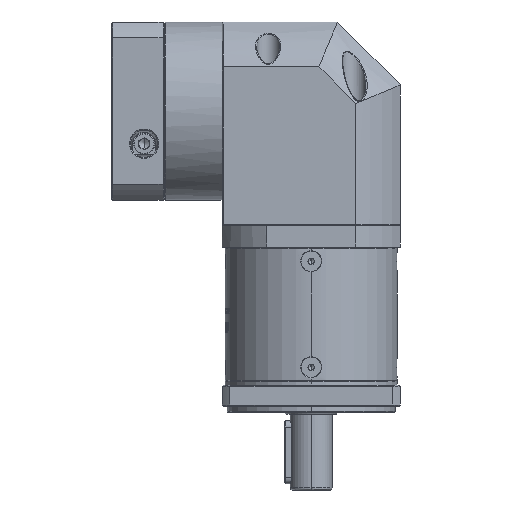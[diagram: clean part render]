
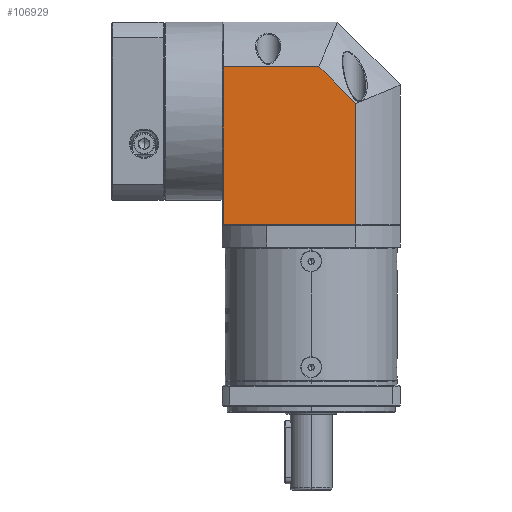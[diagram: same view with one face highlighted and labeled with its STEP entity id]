
A CAD part, left-side view. The second image highlights one B-rep face of the part: STEP entity #106929.
In plain terms, the highlighted planar face has unit normal (-1, 0, 0).
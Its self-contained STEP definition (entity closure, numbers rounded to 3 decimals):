
#6886 = CARTESIAN_POINT ( 'NONE',  ( -129.934, 29.81, 108.651 ) ) ;
#12900 = LINE ( 'NONE', #159520, #49364 ) ;
#16963 = CARTESIAN_POINT ( 'NONE',  ( -129.934, 12.28, 33.438 ) ) ;
#21484 = VECTOR ( 'NONE', #109934, 1000. ) ;
#25760 = LINE ( 'NONE', #93717, #21484 ) ;
#27544 = VERTEX_POINT ( 'NONE', #6886 ) ;
#38805 = EDGE_CURVE ( 'NONE', #153189, #154601, #25760, .T. ) ;
#39805 = AXIS2_PLACEMENT_3D ( 'NONE', #52288, #148241, #66148 ) ;
#42442 = ORIENTED_EDGE ( 'NONE', *, *, #38805, .T. ) ;
#42551 = CARTESIAN_POINT ( 'NONE',  ( -129.934, 75.493, 108.651 ) ) ;
#43407 = LINE ( 'NONE', #109161, #161566 ) ;
#43845 = VECTOR ( 'NONE', #63305, 1000. ) ;
#48285 = EDGE_CURVE ( 'NONE', #90035, #27544, #43407, .T. ) ;
#48838 = CARTESIAN_POINT ( 'NONE',  ( -129.934, 75.493, 129.938 ) ) ;
#49364 = VECTOR ( 'NONE', #63599, 1000. ) ;
#52288 = CARTESIAN_POINT ( 'NONE',  ( -129.934, 75.993, 129.938 ) ) ;
#52754 = CARTESIAN_POINT ( 'NONE',  ( -129.934, 75.493, 33.438 ) ) ;
#54494 = DIRECTION ( 'NONE',  ( 0., -1., 0. ) ) ;
#56301 = ORIENTED_EDGE ( 'NONE', *, *, #139628, .F. ) ;
#60227 = DIRECTION ( 'NONE',  ( 0., 0., -1. ) ) ;
#63305 = DIRECTION ( 'NONE',  ( 0., 0., 1. ) ) ;
#63599 = DIRECTION ( 'NONE',  ( 0., -0.707, -0.707 ) ) ;
#64021 = LINE ( 'NONE', #145284, #100517 ) ;
#66148 = DIRECTION ( 'NONE',  ( 0., 1., 0. ) ) ;
#70414 = EDGE_LOOP ( 'NONE', ( #42442, #97222, #134782, #82148, #56301 ) ) ;
#82148 = ORIENTED_EDGE ( 'NONE', *, *, #48285, .F. ) ;
#84062 = EDGE_CURVE ( 'NONE', #27544, #152440, #12900, .T. ) ;
#90035 = VERTEX_POINT ( 'NONE', #42551 ) ;
#93717 = CARTESIAN_POINT ( 'NONE',  ( -129.934, 75.993, 33.438 ) ) ;
#97222 = ORIENTED_EDGE ( 'NONE', *, *, #144188, .F. ) ;
#100517 = VECTOR ( 'NONE', #60227, 1000. ) ;
#106929 = ADVANCED_FACE ( 'NONE', ( #117653 ), #160888, .F. ) ;
#109161 = CARTESIAN_POINT ( 'NONE',  ( -129.934, 75.993, 108.651 ) ) ;
#109934 = DIRECTION ( 'NONE',  ( 0., -1., 0. ) ) ;
#117653 = FACE_OUTER_BOUND ( 'NONE', #70414, .T. ) ;
#132199 = CARTESIAN_POINT ( 'NONE',  ( -129.934, 12.28, 91.121 ) ) ;
#134782 = ORIENTED_EDGE ( 'NONE', *, *, #84062, .F. ) ;
#139628 = EDGE_CURVE ( 'NONE', #153189, #90035, #153346, .T. ) ;
#144188 = EDGE_CURVE ( 'NONE', #152440, #154601, #64021, .T. ) ;
#145284 = CARTESIAN_POINT ( 'NONE',  ( -129.934, 12.28, 133.438 ) ) ;
#148241 = DIRECTION ( 'NONE',  ( 1., 0., 0. ) ) ;
#152440 = VERTEX_POINT ( 'NONE', #132199 ) ;
#153189 = VERTEX_POINT ( 'NONE', #52754 ) ;
#153346 = LINE ( 'NONE', #48838, #43845 ) ;
#154601 = VERTEX_POINT ( 'NONE', #16963 ) ;
#159520 = CARTESIAN_POINT ( 'NONE',  ( -129.934, 29.81, 108.651 ) ) ;
#160888 = PLANE ( 'NONE',  #39805 ) ;
#161566 = VECTOR ( 'NONE', #54494, 1000. ) ;
